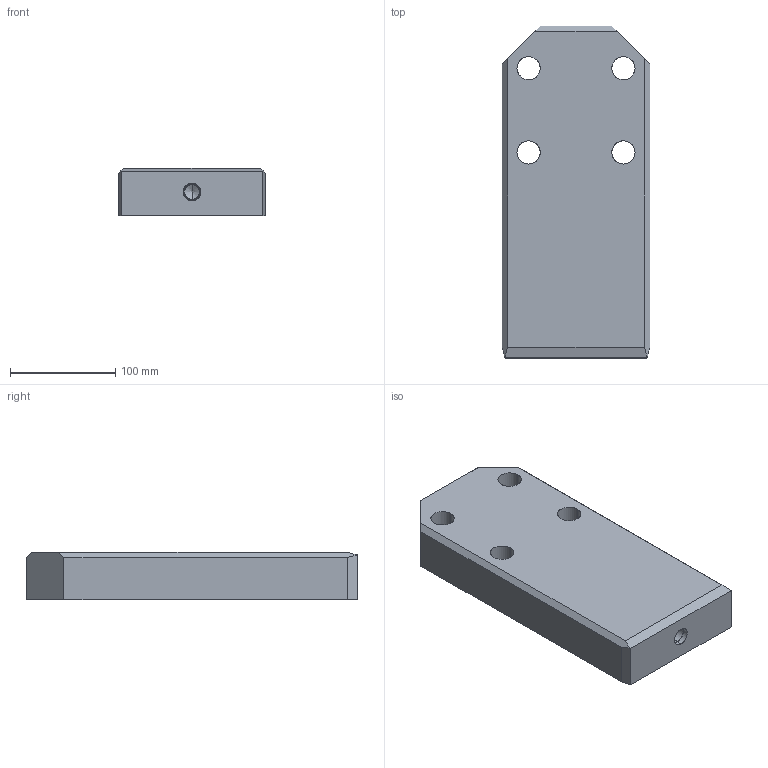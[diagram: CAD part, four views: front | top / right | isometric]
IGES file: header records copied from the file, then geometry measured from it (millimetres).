
Start section: START RECORD GO HERE.
Global section: file name: A927-140X315X45.igs; native system: DASSAULT SYSTEMES CATIA V5 R20 - www.3ds.com; preprocessor: CATIA Version 5 Release 20 ; author: Utente; organization: NB04-ASUS; date: 20200408.202253; units: millimetre
Bounding box: 140 x 315 x 45 mm (x, y, z)
Surface area: 136880.8 mm2 (no closed solid volume)
Topology: 0 solids, 0 shells, 52 faces, 242 edges, 240 vertices
Faces by surface type: revolution 32, extrusion 20
